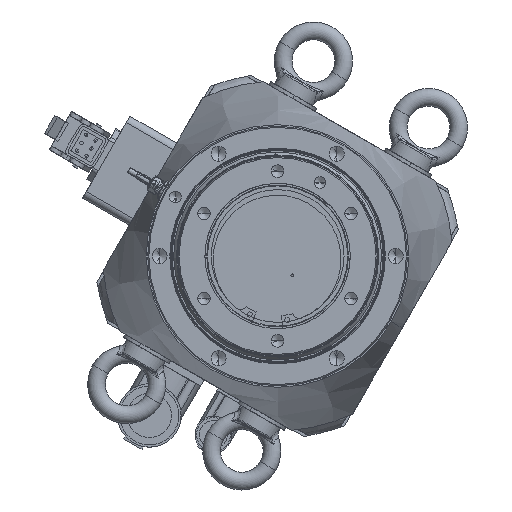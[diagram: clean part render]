
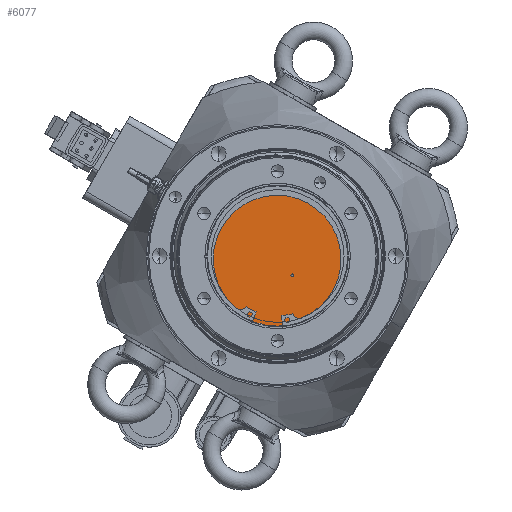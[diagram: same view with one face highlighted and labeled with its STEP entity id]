
A CAD part, front view. The second image highlights one B-rep face of the part: STEP entity #6077.
In plain terms, the highlighted planar face has unit normal (0, -1, 0).
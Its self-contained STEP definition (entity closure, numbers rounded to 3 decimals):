
#181 = AXIS2_PLACEMENT_3D ( 'NONE', #48920, #59402, #69757 ) ;
#1903 = EDGE_LOOP ( 'NONE', ( #37703, #48821 ) ) ;
#2662 = CARTESIAN_POINT ( 'NONE',  ( 9.993, -49.5, -12.971 ) ) ;
#3064 = VERTEX_POINT ( 'NONE', #31525 ) ;
#3807 = DIRECTION ( 'NONE',  ( -1., 0., 0. ) ) ;
#4201 = EDGE_LOOP ( 'NONE', ( #13238, #45290 ) ) ;
#6077 = ADVANCED_FACE ( 'NONE', ( #48588, #70512 ), #33088, .F. ) ;
#6426 = VERTEX_POINT ( 'NONE', #27141 ) ;
#8938 = EDGE_CURVE ( 'NONE', #46552, #3064, #20447, .T. ) ;
#13238 = ORIENTED_EDGE ( 'NONE', *, *, #36913, .F. ) ;
#14667 = AXIS2_PLACEMENT_3D ( 'NONE', #26804, #33277, #48440 ) ;
#20447 = CIRCLE ( 'NONE', #59670, 1. ) ;
#25894 = CIRCLE ( 'NONE', #30497, 47.5 ) ;
#26804 = CARTESIAN_POINT ( 'NONE',  ( 0., -49.5, 0. ) ) ;
#27141 = CARTESIAN_POINT ( 'NONE',  ( -47.5, -49.5, 0. ) ) ;
#28630 = CARTESIAN_POINT ( 'NONE',  ( 10.993, -49.5, -12.971 ) ) ;
#30497 = AXIS2_PLACEMENT_3D ( 'NONE', #59412, #48220, #3807 ) ;
#31339 = CIRCLE ( 'NONE', #181, 1. ) ;
#31525 = CARTESIAN_POINT ( 'NONE',  ( 8.993, -49.5, -12.971 ) ) ;
#33088 = PLANE ( 'NONE',  #37496 ) ;
#33277 = DIRECTION ( 'NONE',  ( 0., 1., 0. ) ) ;
#36913 = EDGE_CURVE ( 'NONE', #69649, #6426, #65342, .T. ) ;
#37496 = AXIS2_PLACEMENT_3D ( 'NONE', #49674, #55103, #64807 ) ;
#37703 = ORIENTED_EDGE ( 'NONE', *, *, #8938, .T. ) ;
#41828 = EDGE_CURVE ( 'NONE', #6426, #69649, #25894, .T. ) ;
#42371 = DIRECTION ( 'NONE',  ( 0., 1., 0. ) ) ;
#42675 = CARTESIAN_POINT ( 'NONE',  ( 47.5, -49.5, 0. ) ) ;
#45290 = ORIENTED_EDGE ( 'NONE', *, *, #41828, .F. ) ;
#46552 = VERTEX_POINT ( 'NONE', #28630 ) ;
#48220 = DIRECTION ( 'NONE',  ( 0., 1., 0. ) ) ;
#48440 = DIRECTION ( 'NONE',  ( -1., 0., 0. ) ) ;
#48588 = FACE_OUTER_BOUND ( 'NONE', #4201, .T. ) ;
#48821 = ORIENTED_EDGE ( 'NONE', *, *, #62591, .T. ) ;
#48920 = CARTESIAN_POINT ( 'NONE',  ( 9.993, -49.5, -12.971 ) ) ;
#49674 = CARTESIAN_POINT ( 'NONE',  ( 0., -49.5, 0. ) ) ;
#55103 = DIRECTION ( 'NONE',  ( 0., 1., 0. ) ) ;
#59402 = DIRECTION ( 'NONE',  ( 0., 1., 0. ) ) ;
#59412 = CARTESIAN_POINT ( 'NONE',  ( 0., -49.5, 0. ) ) ;
#59670 = AXIS2_PLACEMENT_3D ( 'NONE', #2662, #42371, #69329 ) ;
#62591 = EDGE_CURVE ( 'NONE', #3064, #46552, #31339, .T. ) ;
#64807 = DIRECTION ( 'NONE',  ( -1., 0., 0. ) ) ;
#65342 = CIRCLE ( 'NONE', #14667, 47.5 ) ;
#69329 = DIRECTION ( 'NONE',  ( -1., 0., 0. ) ) ;
#69649 = VERTEX_POINT ( 'NONE', #42675 ) ;
#69757 = DIRECTION ( 'NONE',  ( -1., 0., 0. ) ) ;
#70512 = FACE_BOUND ( 'NONE', #1903, .T. ) ;
